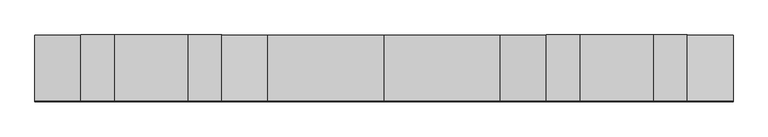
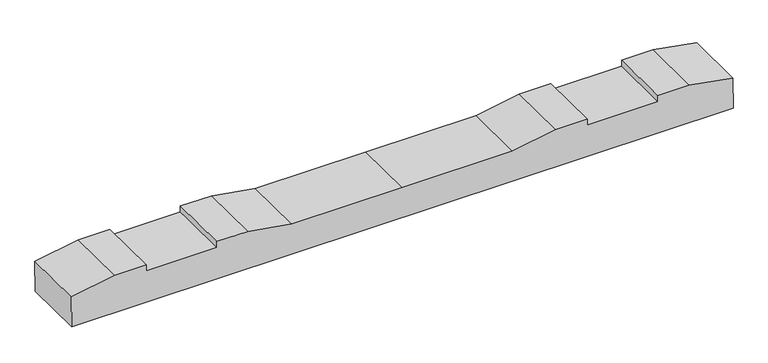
"""IFC4 building model written with IfcOpenShell, lengths in millimetres: proxy geometry, 轨枕-立面角度 : 轨枕-立面角度."""

from ifc_helpers import new_model, si_unit, frame, origin, place, context, project, spatial, polyline, outline, extrude, source, transform, mapped, element, save


def generic_models_1adfb590(model_context):
    return source(origin(), model_context, "Body", "SweptSolid", [
        extrude(outline(polyline([(0.0, 0.0), (0.0, -100.0206889), (-137.8834664, -124.5), (-237.8834664, -124.5), (-237.8834664, -104.4999999), (-461.8834664, -104.4999999), (-461.8834664, -124.5), (-561.8834664, -124.5), (-699.8834664, -100.0), (-1049.8834664, -100.0), (-1399.8834664, -100.0), (-1537.8834664, -124.5), (-1637.8834664, -124.5), (-1637.8834664, -104.4999999), (-1861.8834664, -104.4999999), (-1861.8834664, -124.5), (-1961.8834664, -124.5), (-2099.7669328, -100.0206889), (-2099.7669328, 0.0), (0.0, 0.0)])), frame((-1049.8834664, 98.8420638, -105.595911), z_axis=(0.0, -0.9999392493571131, 0.0110225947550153), x_axis=(-1.0, 0.0, 0.0)), (0.0, 0.0, 1.0), 200.0),
    ])


if __name__ == "__main__":
    model = new_model("IFC4")
    model_context = context("Model", 3, world=origin())
    ifc_project = project(units=[si_unit("LENGTHUNIT", "METRE", prefix="MILLI")], contexts=[model_context])
    site = spatial("IfcSite", under=ifc_project)
    building = spatial("IfcBuilding", under=site)
    placement = place(None, origin())
    generic_models_shape = generic_models_1adfb590(model_context)
    element("IfcBuildingElementProxy", 1, Name="轨枕-立面角度 : 轨枕-立面角度", ObjectType="轨枕-立面角度 : 轨枕-立面角度", at=placement, inside=building, context=model_context, shape_type="MappedRepresentation", body=[
        mapped(generic_models_shape, transform((0.0, 0.0, 0.0), x_axis=(1.0, 0.0, 0.0), y_axis=(0.0, 1.0, 0.0), z_axis=(0.0, 0.0, 1.0))),
    ])
    save(model, "model.ifc")
